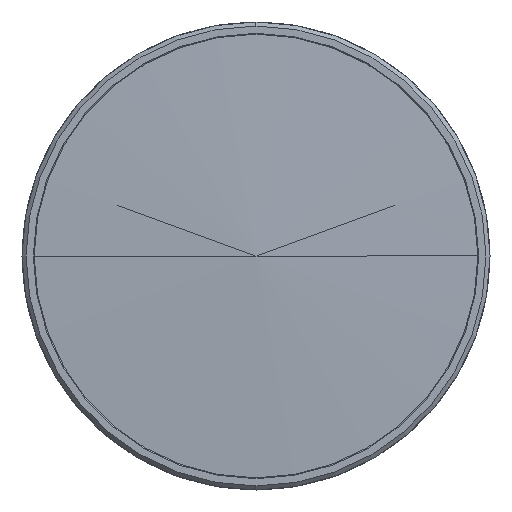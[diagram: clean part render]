
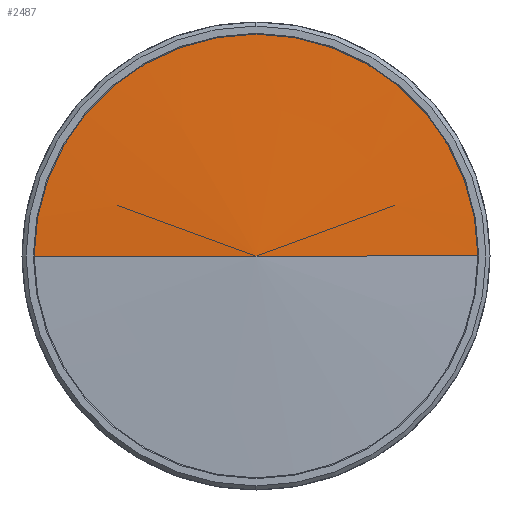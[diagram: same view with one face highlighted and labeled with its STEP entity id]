
A CAD part, left-side view. The second image highlights one B-rep face of the part: STEP entity #2487.
In plain terms, the highlighted conical face has half-angle 87.526 degrees and reference radius 23142.6 mm.
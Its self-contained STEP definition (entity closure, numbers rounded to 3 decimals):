
#229 = FACE_OUTER_BOUND ( 'NONE', #5374, .T. ) ;
#680 = EDGE_CURVE ( 'NONE', #999, #2720, #1163, .T. ) ;
#717 = CONICAL_SURFACE ( 'NONE', #5146, 23142.572, 1.528 ) ;
#854 = ORIENTED_EDGE ( 'NONE', *, *, #680, .T. ) ;
#869 = EDGE_CURVE ( 'NONE', #4967, #2720, #4369, .T. ) ;
#999 = VERTEX_POINT ( 'NONE', #4651 ) ;
#1136 = DIRECTION ( 'NONE',  ( 1., 0., 0. ) ) ;
#1149 = CARTESIAN_POINT ( 'NONE',  ( 1000., 0., 0. ) ) ;
#1163 = LINE ( 'NONE', #4474, #1958 ) ;
#1445 = DIRECTION ( 'NONE',  ( 0.043, -0.999, 0. ) ) ;
#1725 = LINE ( 'NONE', #1744, #4440 ) ;
#1744 = CARTESIAN_POINT ( 'NONE',  ( 0., 0., 0. ) ) ;
#1958 = VECTOR ( 'NONE', #1445, 1000. ) ;
#2395 = CARTESIAN_POINT ( 'NONE',  ( 5.857, 0., 0. ) ) ;
#2487 = ADVANCED_FACE ( 'NONE', ( #229 ), #717, .T. ) ;
#2515 = ORIENTED_EDGE ( 'NONE', *, *, #2706, .F. ) ;
#2562 = CARTESIAN_POINT ( 'NONE',  ( 5.857, 135.55, 0. ) ) ;
#2706 = EDGE_CURVE ( 'NONE', #999, #4967, #1725, .T. ) ;
#2720 = VERTEX_POINT ( 'NONE', #3496 ) ;
#2904 = DIRECTION ( 'NONE',  ( 0., 1., 0. ) ) ;
#2923 = DIRECTION ( 'NONE',  ( 1., 0., 0. ) ) ;
#3483 = AXIS2_PLACEMENT_3D ( 'NONE', #2395, #1136, #3685 ) ;
#3496 = CARTESIAN_POINT ( 'NONE',  ( 5.857, -135.55, 0. ) ) ;
#3685 = DIRECTION ( 'NONE',  ( 0., 0., -1. ) ) ;
#3892 = ORIENTED_EDGE ( 'NONE', *, *, #869, .F. ) ;
#4369 = CIRCLE ( 'NONE', #3483, 135.55 ) ;
#4440 = VECTOR ( 'NONE', #4815, 1000. ) ;
#4474 = CARTESIAN_POINT ( 'NONE',  ( 0., 0., 0. ) ) ;
#4651 = CARTESIAN_POINT ( 'NONE',  ( 0., 0., 0. ) ) ;
#4815 = DIRECTION ( 'NONE',  ( 0.043, 0.999, 0. ) ) ;
#4967 = VERTEX_POINT ( 'NONE', #2562 ) ;
#5146 = AXIS2_PLACEMENT_3D ( 'NONE', #1149, #2923, #2904 ) ;
#5374 = EDGE_LOOP ( 'NONE', ( #2515, #854, #3892 ) ) ;
